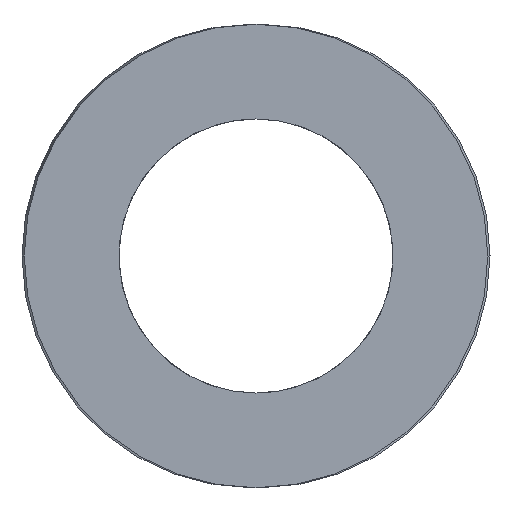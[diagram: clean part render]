
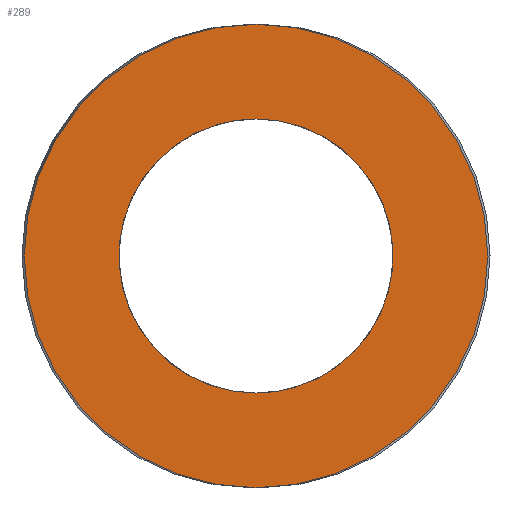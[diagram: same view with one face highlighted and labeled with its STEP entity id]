
A CAD part, left-side view. The second image highlights one B-rep face of the part: STEP entity #289.
In plain terms, the highlighted planar face has unit normal (-1, 0, 0).
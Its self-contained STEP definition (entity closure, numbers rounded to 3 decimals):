
#63=CARTESIAN_POINT('Vertex',(0.,4.65,0.)) ;
#77=CARTESIAN_POINT('Vertex',(0.,-4.65,0.)) ;
#80=CARTESIAN_POINT('Axis2P3D Location',(0.,0.,0.)) ;
#97=CARTESIAN_POINT('Axis2P3D Location',(0.,0.,0.)) ;
#226=CARTESIAN_POINT('Axis2P3D Location',(0.,2.325,0.)) ;
#236=CARTESIAN_POINT('Control Point',(0.,0.,-2.75)) ;
#237=CARTESIAN_POINT('Control Point',(0.,0.325,-2.75)) ;
#238=CARTESIAN_POINT('Control Point',(0.,0.65,-2.702)) ;
#239=CARTESIAN_POINT('Control Point',(0.,0.965,-2.606)) ;
#240=CARTESIAN_POINT('Control Point',(0.,1.559,-2.324)) ;
#241=CARTESIAN_POINT('Control Point',(0.,2.045,-1.882)) ;
#242=CARTESIAN_POINT('Control Point',(0.,2.253,-1.626)) ;
#243=CARTESIAN_POINT('Control Point',(0.,2.589,-1.061)) ;
#244=CARTESIAN_POINT('Control Point',(0.,2.747,-0.424)) ;
#245=CARTESIAN_POINT('Control Point',(0.,2.777,-0.095)) ;
#246=CARTESIAN_POINT('Control Point',(0.,2.741,0.561)) ;
#247=CARTESIAN_POINT('Control Point',(0.,2.517,1.178)) ;
#248=CARTESIAN_POINT('Control Point',(0.,2.36,1.468)) ;
#249=CARTESIAN_POINT('Control Point',(0.,1.964,1.993)) ;
#250=CARTESIAN_POINT('Control Point',(0.,1.434,2.38)) ;
#251=CARTESIAN_POINT('Control Point',(0.,1.142,2.534)) ;
#252=CARTESIAN_POINT('Control Point',(0.,0.733,2.675)) ;
#253=CARTESIAN_POINT('Control Point',(0.,0.309,2.735)) ;
#254=CARTESIAN_POINT('Control Point',(0.,0.206,2.745)) ;
#255=CARTESIAN_POINT('Control Point',(0.,0.103,2.75)) ;
#256=CARTESIAN_POINT('Control Point',(0.,0.,2.75)) ;
#257=CARTESIAN_POINT('Vertex',(0.,0.,-2.75)) ;
#259=CARTESIAN_POINT('Vertex',(0.,0.,2.75)) ;
#263=CARTESIAN_POINT('Control Point',(0.,0.,2.75)) ;
#264=CARTESIAN_POINT('Control Point',(0.,-0.325,2.75)) ;
#265=CARTESIAN_POINT('Control Point',(0.,-0.65,2.702)) ;
#266=CARTESIAN_POINT('Control Point',(0.,-0.965,2.606)) ;
#267=CARTESIAN_POINT('Control Point',(0.,-1.559,2.324)) ;
#268=CARTESIAN_POINT('Control Point',(0.,-2.045,1.882)) ;
#269=CARTESIAN_POINT('Control Point',(0.,-2.253,1.626)) ;
#270=CARTESIAN_POINT('Control Point',(0.,-2.589,1.061)) ;
#271=CARTESIAN_POINT('Control Point',(0.,-2.747,0.424)) ;
#272=CARTESIAN_POINT('Control Point',(0.,-2.777,0.095)) ;
#273=CARTESIAN_POINT('Control Point',(0.,-2.741,-0.561)) ;
#274=CARTESIAN_POINT('Control Point',(0.,-2.517,-1.178)) ;
#275=CARTESIAN_POINT('Control Point',(0.,-2.36,-1.468)) ;
#276=CARTESIAN_POINT('Control Point',(0.,-1.964,-1.993)) ;
#277=CARTESIAN_POINT('Control Point',(0.,-1.434,-2.38)) ;
#278=CARTESIAN_POINT('Control Point',(0.,-1.142,-2.534)) ;
#279=CARTESIAN_POINT('Control Point',(0.,-0.733,-2.675)) ;
#280=CARTESIAN_POINT('Control Point',(0.,-0.309,-2.735)) ;
#281=CARTESIAN_POINT('Control Point',(0.,-0.206,-2.745)) ;
#282=CARTESIAN_POINT('Control Point',(0.,-0.103,-2.75)) ;
#283=CARTESIAN_POINT('Control Point',(0.,0.,-2.75)) ;
#81=DIRECTION('Axis2P3D Direction',(1.,-0.,0.)) ;
#98=DIRECTION('Axis2P3D Direction',(1.,-0.,0.)) ;
#227=DIRECTION('Axis2P3D Direction',(-1.,0.,0.)) ;
#228=DIRECTION('Axis2P3D XDirection',(0.,1.,0.)) ;
#82=AXIS2_PLACEMENT_3D('Circle Axis2P3D',#80,#81,$) ;
#99=AXIS2_PLACEMENT_3D('Circle Axis2P3D',#97,#98,$) ;
#229=AXIS2_PLACEMENT_3D('Plane Axis2P3D',#226,#227,#228) ;
#232=ORIENTED_EDGE('',*,*,#84,.T.) ;
#233=ORIENTED_EDGE('',*,*,#101,.T.) ;
#286=ORIENTED_EDGE('',*,*,#261,.T.) ;
#287=ORIENTED_EDGE('',*,*,#284,.T.) ;
#288=FACE_BOUND('',#285,.T.) ;
#289=ADVANCED_FACE('392-B10-076',(#234,#288),#230,.T.) ;
#235=B_SPLINE_CURVE_WITH_KNOTS('',5,(#236,#237,#238,#239,#240,#241,#242,#243,#244,#245,#246,#247,#248,#249,#250,#251,#252,#253,#254,#255,#256),.UNSPECIFIED.,.F.,.U.,(6,3,3,3,3,3,6),(0.,2.298,4.596,6.893,9.191,11.489,12.217),.UNSPECIFIED.) ;
#262=B_SPLINE_CURVE_WITH_KNOTS('',5,(#263,#264,#265,#266,#267,#268,#269,#270,#271,#272,#273,#274,#275,#276,#277,#278,#279,#280,#281,#282,#283),.UNSPECIFIED.,.F.,.U.,(6,3,3,3,3,3,6),(0.,2.298,4.596,6.893,9.191,11.489,12.217),.UNSPECIFIED.) ;
#83=CIRCLE('generated circle',#82,4.65) ;
#100=CIRCLE('generated circle',#99,4.65) ;
#84=EDGE_CURVE('',#64,#78,#83,.F.) ;
#101=EDGE_CURVE('',#78,#64,#100,.F.) ;
#261=EDGE_CURVE('',#258,#260,#235,.T.) ;
#284=EDGE_CURVE('',#260,#258,#262,.T.) ;
#231=EDGE_LOOP('',(#232,#233)) ;
#285=EDGE_LOOP('',(#286,#287)) ;
#234=FACE_OUTER_BOUND('',#231,.T.) ;
#230=PLANE('Plane',#229) ;
#64=VERTEX_POINT('',#63) ;
#78=VERTEX_POINT('',#77) ;
#258=VERTEX_POINT('',#257) ;
#260=VERTEX_POINT('',#259) ;
